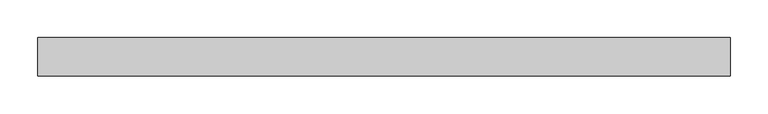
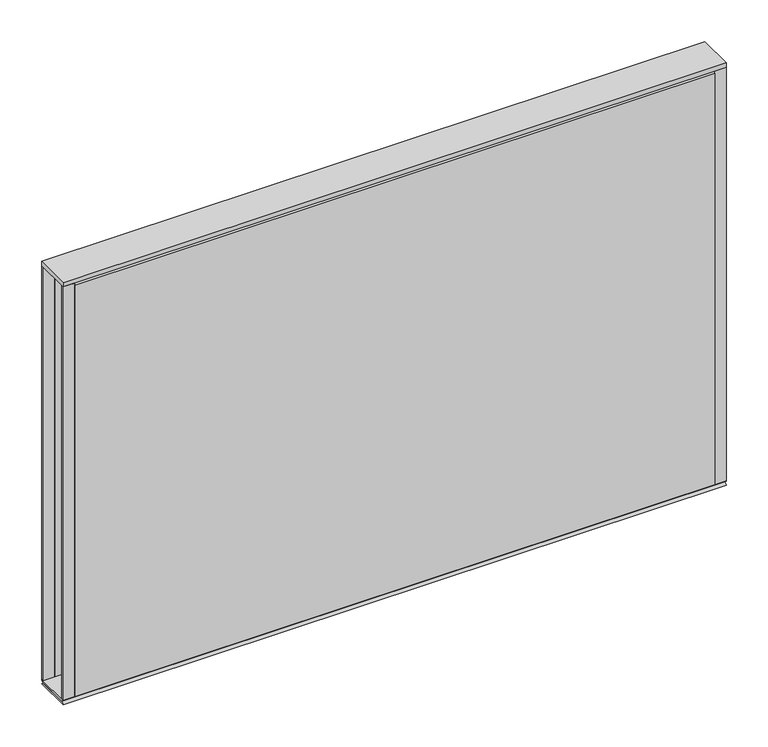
"""IFC4 building model written with IfcOpenShell, lengths in millimetres: furniture geometry, Steelcase - Kick Solutions - Panel - Stacker - Tackable Acoustical : 24H x 36W."""

from ifc_helpers import new_model, si_unit, frame, origin, place, context, project, spatial, polyline, outline, extrude, source, transform, mapped, element, save


def furniture_bcb4e859(model_context):
    return source(origin(), model_context, "Body", "SweptSolid", [
        extrude(outline(polyline([(-50.7995075, 1073.2669139), (-0.000494, 1073.2669139), (-3.1752531, 1070.0921549), (-47.6247484, 1070.0921549), (-50.7995075, 1073.2669139)])), frame((0.0, 0.0, 0.0), z_axis=(1.0, 0.0, 0.0), x_axis=(0.0, 1.0, 0.0)), (0.0, 0.0, 1.0), 914.4),
        extrude(outline(polyline([(0.0, 1073.2669139), (-3.1750015, 1073.2669139), (-3.1750015, 1676.5169018), (0.0, 1673.4357466), (0.0, 1073.2669139)])), frame((15.8749996, 0.0, 0.0), z_axis=(1.0, 0.0, 0.0), x_axis=(0.0, 1.0, 0.0)), (0.0, 0.0, 1.0), 882.6500008),
        extrude(outline(polyline([(-50.8000015, 1073.2669139), (-50.8000015, 1673.4357466), (-47.625, 1676.5169018), (-47.625, 1073.2669139), (-50.8000015, 1073.2669139)])), frame((15.8749996, 0.0, 0.0), z_axis=(1.0, 0.0, 0.0), x_axis=(0.0, 1.0, 0.0)), (0.0, 0.0, 1.0), 882.6500008),
        extrude(outline(polyline([(914.4, -3.1750015), (898.5250004, -3.1750015), (898.5250004, 0.0), (914.4, 0.0), (914.4, -3.1750015)])), frame((0.0, 0.0, 1073.2669139), z_axis=(0.0, 0.0, 1.0), x_axis=(1.0, 0.0, 0.0)), (0.0, 0.0, 1.0), 603.2499879),
        extrude(outline(polyline([(15.8749996, -50.8000015), (0.0, -50.8000015), (0.0, -47.625), (15.8749996, -47.625), (15.8749996, -50.8000015)])), frame((0.0, 0.0, 1073.2669139), z_axis=(0.0, 0.0, 1.0), x_axis=(1.0, 0.0, 0.0)), (0.0, 0.0, 1.0), 603.2499879),
        extrude(outline(polyline([(914.4, 0.0), (914.4, -50.8000015), (0.0, -50.8000015), (0.0, 0.0), (914.4, 0.0)])), frame((0.0, 0.0, 1676.5169018), z_axis=(0.0, 0.0, 1.0), x_axis=(1.0, 0.0, 0.0)), (0.0, 0.0, 1.0), 6.35),
        extrude(outline(polyline([(15.8749996, -3.1750015), (0.0, -3.1750015), (0.0, 0.0), (15.8749996, 0.0), (15.8749996, -3.1750015)])), frame((0.0, 0.0, 1073.2669139), z_axis=(0.0, 0.0, 1.0), x_axis=(1.0, 0.0, 0.0)), (0.0, 0.0, 1.0), 603.2499879),
        extrude(outline(polyline([(914.4, -50.8000015), (898.5250004, -50.8000015), (898.5250004, -47.625), (914.4, -47.625), (914.4, -50.8000015)])), frame((0.0, 0.0, 1073.2669139), z_axis=(0.0, 0.0, 1.0), x_axis=(1.0, 0.0, 0.0)), (0.0, 0.0, 1.0), 603.2499879),
        extrude(outline(polyline([(-50.8000015, 1066.9169018), (-47.6247484, 1070.0921549), (-3.1752531, 1070.0921549), (0.0, 1066.9169018), (-50.8000015, 1066.9169018)])), frame((0.0, 0.0, 0.0), z_axis=(1.0, 0.0, 0.0), x_axis=(0.0, 1.0, 0.0)), (0.0, 0.0, 1.0), 914.4),
    ])


if __name__ == "__main__":
    model = new_model("IFC4")
    model_context = context("Model", 3, world=origin())
    ifc_project = project(units=[si_unit("LENGTHUNIT", "METRE", prefix="MILLI")], contexts=[model_context])
    site = spatial("IfcSite", under=ifc_project)
    building = spatial("IfcBuilding", under=site)
    placement = place(None, origin())
    furniture_shape = furniture_bcb4e859(model_context)
    element("IfcFurniture", 1, ObjectType="Steelcase - Kick Solutions - Panel - Stacker - Tackable Acoustical : 24H x 36W", at=placement, inside=building, context=model_context, shape_type="MappedRepresentation", body=[
        mapped(furniture_shape, transform((0.0, 0.0, 0.0), x_axis=(1.0, 0.0, 0.0), y_axis=(0.0, 1.0, 0.0), z_axis=(0.0, 0.0, 1.0))),
    ])
    save(model, "model.ifc")
